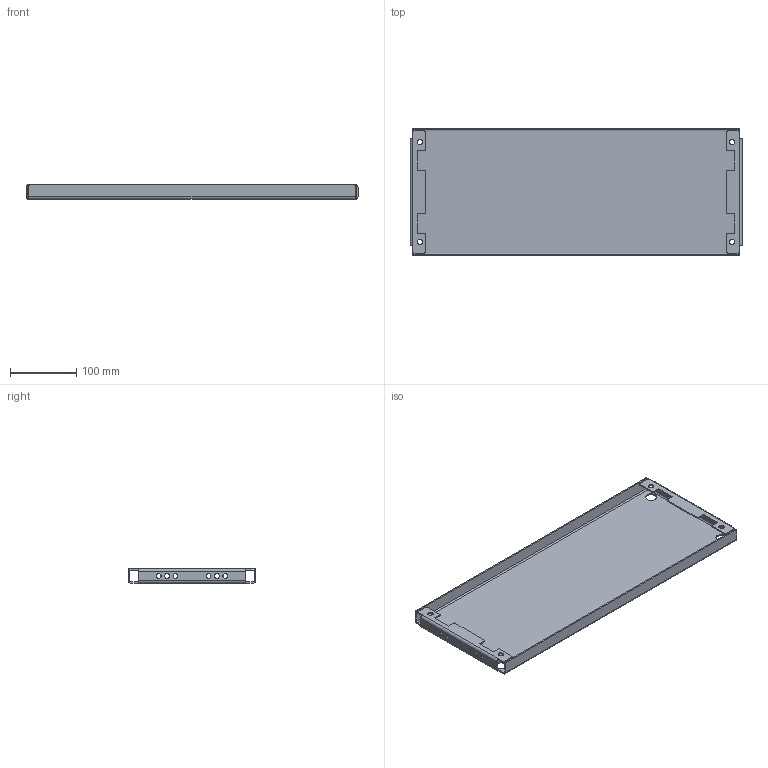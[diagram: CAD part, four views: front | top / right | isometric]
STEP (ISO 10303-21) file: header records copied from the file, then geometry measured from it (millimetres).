
FILE_DESCRIPTION(('STEP AP203'), '1');
FILE_NAME('3550 Ñåêöèîííàÿ ìîíòàæíàÿ ïàíåëü', '', ('UNSPECIFIED'), ('UNSPECIFIED'), 'C3D Converter', 'C3D Toolkit', '');
FILE_SCHEMA(('CONFIG_CONTROL_DESIGN'));
Length unit declared in the file: millimetre
Products named in the file (1): 3550.20.60
Bounding box: 500 x 192 x 22 mm (x, y, z)
Volume: 249239.6 mm3; surface area: 253965.3 mm2
Topology: 1 solids, 1 shells, 118 faces, 300 edges, 184 vertices
Faces by surface type: plane 66, cylinder 52
Full cylindrical faces by diameter (mm): 7 x12, 8 x4, 17 x4
Entity records: 3544 total; most frequent: DIRECTION 622, CARTESIAN_POINT 583, ORIENTED_EDGE 560, EDGE_CURVE 280, AXIS2_PLACEMENT_3D 223, VERTEX_POINT 184, EDGE_LOOP 178, LINE 176
